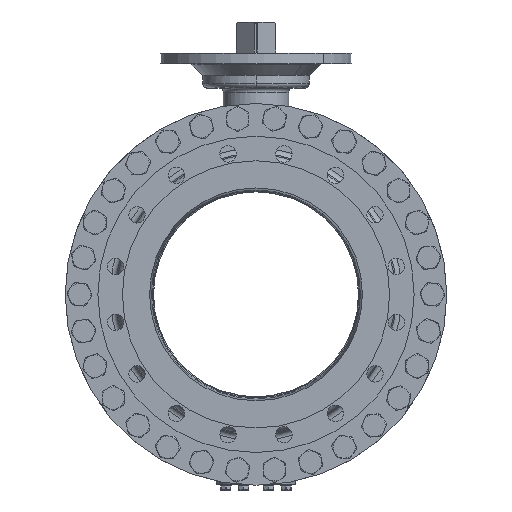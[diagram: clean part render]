
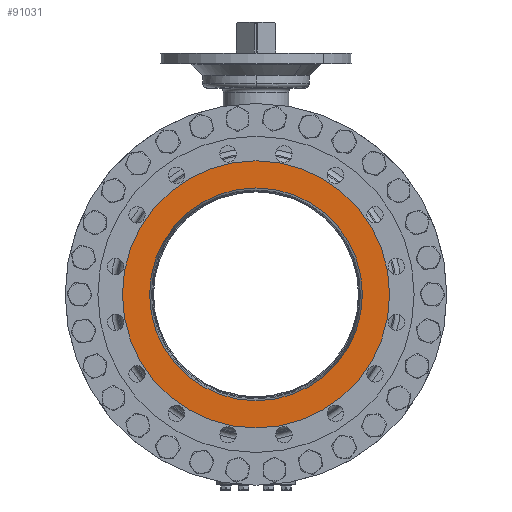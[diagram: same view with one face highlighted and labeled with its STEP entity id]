
A CAD part, left-side view. The second image highlights one B-rep face of the part: STEP entity #91031.
In plain terms, the highlighted planar face has unit normal (-1, 0, 0).
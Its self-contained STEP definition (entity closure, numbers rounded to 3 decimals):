
#14272=CARTESIAN_POINT('',(-381.,0.,0.));
#14273=DIRECTION('',(1.,0.,0.));
#14274=DIRECTION('',(0.,0.,1.));
#14275=AXIS2_PLACEMENT_3D('',#14272,#14273,#14274);
#14277=CARTESIAN_POINT('',(-381.,0.,0.));
#14278=DIRECTION('',(1.,0.,0.));
#14279=DIRECTION('',(0.,0.,-1.));
#14280=AXIS2_PLACEMENT_3D('',#14277,#14278,#14279);
#14282=CARTESIAN_POINT('',(-381.,0.,0.));
#14283=DIRECTION('',(1.,0.,0.));
#14284=DIRECTION('',(0.,0.,1.));
#14285=AXIS2_PLACEMENT_3D('',#14282,#14283,#14284);
#14287=CARTESIAN_POINT('',(-381.,0.,0.));
#14288=DIRECTION('',(-1.,0.,0.));
#14289=DIRECTION('',(0.,0.,1.));
#14290=AXIS2_PLACEMENT_3D('',#14287,#14288,#14289);
#63122=CARTESIAN_POINT('',(-381.,0.,195.2));
#63124=VERTEX_POINT('',#63122);
#63126=CARTESIAN_POINT('',(-381.,0.,-195.2));
#63128=VERTEX_POINT('',#63126);
#63157=CARTESIAN_POINT('',(-381.,0.,245.));
#63158=CARTESIAN_POINT('',(-381.,0.,-245.));
#63159=VERTEX_POINT('',#63157);
#63160=VERTEX_POINT('',#63158);
#91016=CARTESIAN_POINT('',(-381.,0.,0.));
#91017=DIRECTION('',(-1.,0.,0.));
#91018=DIRECTION('',(0.,0.,-1.));
#91019=AXIS2_PLACEMENT_3D('',#91016,#91017,#91018);
#91020=PLANE('',#91019);
#91022=ORIENTED_EDGE('',*,*,#91021,.T.);
#91024=ORIENTED_EDGE('',*,*,#91023,.T.);
#91025=EDGE_LOOP('',(#91022,#91024));
#91026=FACE_OUTER_BOUND('',#91025,.F.);
#91027=ORIENTED_EDGE('',*,*,#90995,.F.);
#91028=ORIENTED_EDGE('',*,*,#91011,.T.);
#91029=EDGE_LOOP('',(#91027,#91028));
#91030=FACE_BOUND('',#91029,.F.);
#91031=ADVANCED_FACE('',(#91026,#91030),#91020,.T.);
#14276=CIRCLE('',#14275,245.);
#14281=CIRCLE('',#14280,245.);
#14286=CIRCLE('',#14285,195.2);
#14291=CIRCLE('',#14290,195.2);
#90995=EDGE_CURVE('',#63124,#63128,#14286,.T.);
#91011=EDGE_CURVE('',#63124,#63128,#14291,.T.);
#91021=EDGE_CURVE('',#63159,#63160,#14276,.T.);
#91023=EDGE_CURVE('',#63160,#63159,#14281,.T.);
